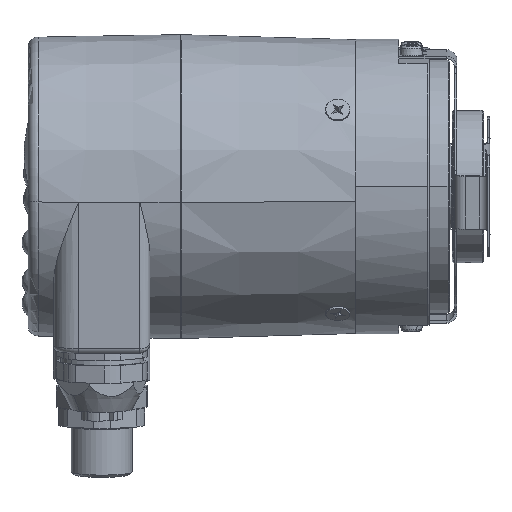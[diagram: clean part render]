
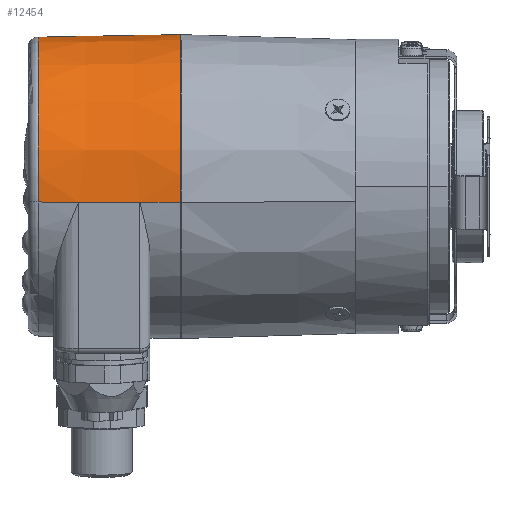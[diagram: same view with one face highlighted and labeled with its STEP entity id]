
A CAD part, top view. The second image highlights one B-rep face of the part: STEP entity #12454.
In plain terms, the highlighted conical face has half-angle 1 degrees and reference radius 30 mm.
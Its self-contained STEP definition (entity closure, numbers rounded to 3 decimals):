
#1844 = CARTESIAN_POINT ( 'NONE',  ( -34.33, -2.194, 29.365 ) ) ;
#1845 = DIRECTION ( 'NONE',  ( 1., -0.002, 0.017 ) ) ;
#1846 = VECTOR ( 'NONE', #1845, 1000. ) ;
#1847 = CARTESIAN_POINT ( 'NONE',  ( -26.819, -2.207, 29.495 ) ) ;
#1848 = LINE ( 'NONE', #1847, #1846 ) ;
#1849 = CARTESIAN_POINT ( 'NONE',  ( -46.383, -2.172, 29.155 ) ) ;
#1850 = DIRECTION ( 'NONE',  ( 1., -0.002, 0.017 ) ) ;
#1851 = VECTOR ( 'NONE', #1850, 1000. ) ;
#1852 = CARTESIAN_POINT ( 'NONE',  ( -26.295, -2.208, 29.504 ) ) ;
#1853 = LINE ( 'NONE', #1852, #1851 ) ;
#1854 = CARTESIAN_POINT ( 'NONE',  ( -54.33, -2.157, 29.017 ) ) ;
#1868 = DIRECTION ( 'NONE',  ( 0., 0.105, -0.995 ) ) ;
#1869 = DIRECTION ( 'NONE',  ( 1., 0., 0. ) ) ;
#1870 = CARTESIAN_POINT ( 'NONE',  ( -26.295, 0.928, -0.332 ) ) ;
#1871 = AXIS2_PLACEMENT_3D ( 'NONE', #1870, #1869, #1868 ) ;
#1872 = CIRCLE ( 'NONE', #1871, 30. ) ;
#1873 = CARTESIAN_POINT ( 'NONE',  ( -26.295, -2.208, 29.504 ) ) ;
#1874 = DIRECTION ( 'NONE',  ( 1., -0.002, 0.017 ) ) ;
#1875 = VECTOR ( 'NONE', #1874, 1000. ) ;
#1876 = CARTESIAN_POINT ( 'NONE',  ( -26.295, -2.208, 29.504 ) ) ;
#1877 = LINE ( 'NONE', #1876, #1875 ) ;
#1967 = DIRECTION ( 'NONE',  ( 1., 0.002, -0.017 ) ) ;
#1968 = VECTOR ( 'NONE', #1967, 1000. ) ;
#1969 = CARTESIAN_POINT ( 'NONE',  ( -26.295, 4.064, -30.167 ) ) ;
#1970 = LINE ( 'NONE', #1969, #1968 ) ;
#1971 = DIRECTION ( 'NONE',  ( 1., 0.002, -0.017 ) ) ;
#1972 = VECTOR ( 'NONE', #1971, 1000. ) ;
#1973 = CARTESIAN_POINT ( 'NONE',  ( -26.819, 4.063, -30.158 ) ) ;
#1978 = LINE ( 'NONE', #1973, #1972 ) ;
#1981 = CONICAL_SURFACE ( 'NONE', #2027, 30., 0.017 ) ;
#1996 = FACE_OUTER_BOUND ( 'NONE', #12455, .T. ) ;
#2024 = DIRECTION ( 'NONE',  ( 0., 0.105, -0.995 ) ) ;
#2025 = DIRECTION ( 'NONE',  ( 1., 0., 0. ) ) ;
#2026 = CARTESIAN_POINT ( 'NONE',  ( -26.295, 0.928, -0.332 ) ) ;
#2027 = AXIS2_PLACEMENT_3D ( 'NONE', #2026, #2025, #2024 ) ;
#2084 = CARTESIAN_POINT ( 'NONE',  ( -46.383, 4.027, -29.819 ) ) ;
#2085 = CARTESIAN_POINT ( 'NONE',  ( -54.33, 4.012, -29.681 ) ) ;
#2086 = DIRECTION ( 'NONE',  ( 0., -0.105, 0.995 ) ) ;
#2087 = DIRECTION ( 'NONE',  ( 1., 0., 0. ) ) ;
#2088 = CARTESIAN_POINT ( 'NONE',  ( -54.33, 0.928, -0.332 ) ) ;
#2089 = AXIS2_PLACEMENT_3D ( 'NONE', #2088, #2087, #2086 ) ;
#2090 = CIRCLE ( 'NONE', #2089, 29.511 ) ;
#2149 = DIRECTION ( 'NONE',  ( 1., 0.002, -0.017 ) ) ;
#2150 = VECTOR ( 'NONE', #2149, 1000. ) ;
#2151 = CARTESIAN_POINT ( 'NONE',  ( -26.295, 4.064, -30.167 ) ) ;
#2152 = LINE ( 'NONE', #2151, #2150 ) ;
#2172 = CARTESIAN_POINT ( 'NONE',  ( -34.33, 4.049, -30.028 ) ) ;
#12396 = VERTEX_POINT ( 'NONE', #1854 ) ;
#12397 = ORIENTED_EDGE ( 'NONE', *, *, #12398, .T. ) ;
#12398 = EDGE_CURVE ( 'NONE', #12396, #12399, #1853, .T. ) ;
#12399 = VERTEX_POINT ( 'NONE', #1849 ) ;
#12400 = ORIENTED_EDGE ( 'NONE', *, *, #12401, .T. ) ;
#12401 = EDGE_CURVE ( 'NONE', #12399, #12402, #1848, .T. ) ;
#12402 = VERTEX_POINT ( 'NONE', #1844 ) ;
#12415 = ORIENTED_EDGE ( 'NONE', *, *, #12416, .T. ) ;
#12416 = EDGE_CURVE ( 'NONE', #12402, #12417, #1877, .T. ) ;
#12417 = VERTEX_POINT ( 'NONE', #1873 ) ;
#12418 = ORIENTED_EDGE ( 'NONE', *, *, #12419, .F. ) ;
#12419 = EDGE_CURVE ( 'NONE', #25498, #12417, #1872, .T. ) ;
#12439 = ORIENTED_EDGE ( 'NONE', *, *, #12509, .F. ) ;
#12440 = ORIENTED_EDGE ( 'NONE', *, *, #12442, .F. ) ;
#12441 = EDGE_CURVE ( 'NONE', #12477, #12501, #1978, .T. ) ;
#12442 = EDGE_CURVE ( 'NONE', #12501, #25498, #1970, .T. ) ;
#12454 = ADVANCED_FACE ( 'NONE', ( #1996 ), #1981, .T. ) ;
#12455 = EDGE_LOOP ( 'NONE', ( #12456, #12397, #12400, #12415, #12418, #12440, #12517, #12439 ) ) ;
#12456 = ORIENTED_EDGE ( 'NONE', *, *, #12474, .T. ) ;
#12474 = EDGE_CURVE ( 'NONE', #12475, #12396, #2090, .T. ) ;
#12475 = VERTEX_POINT ( 'NONE', #2085 ) ;
#12477 = VERTEX_POINT ( 'NONE', #2084 ) ;
#12501 = VERTEX_POINT ( 'NONE', #2172 ) ;
#12509 = EDGE_CURVE ( 'NONE', #12475, #12477, #2152, .T. ) ;
#12517 = ORIENTED_EDGE ( 'NONE', *, *, #12441, .F. ) ;
#24319 = CARTESIAN_POINT ( 'NONE',  ( -26.295, 4.064, -30.167 ) ) ;
#25498 = VERTEX_POINT ( 'NONE', #24319 ) ;
